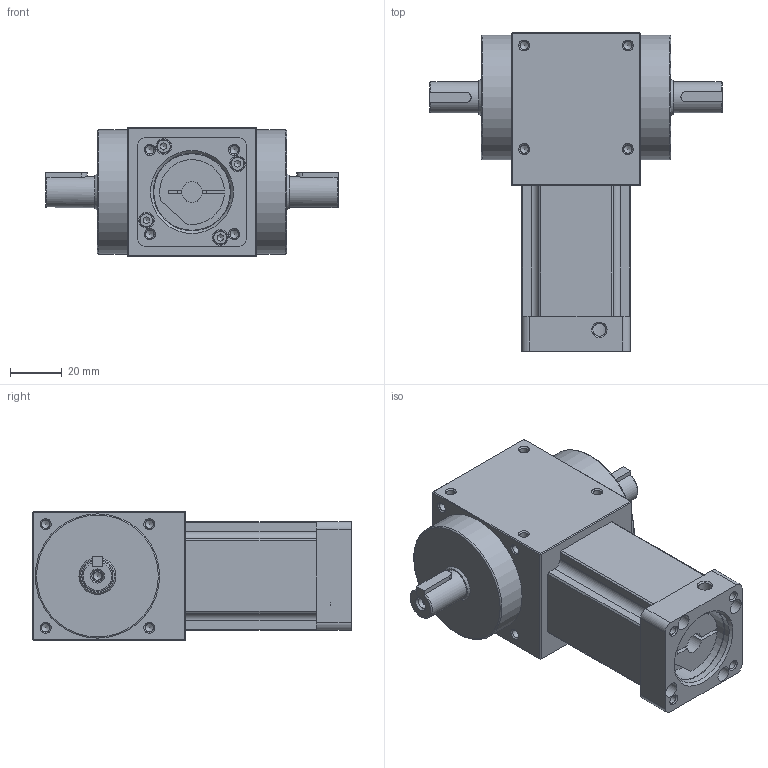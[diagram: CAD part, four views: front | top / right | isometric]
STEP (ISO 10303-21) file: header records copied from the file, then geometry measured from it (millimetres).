
FILE_DESCRIPTION((''),'2;1');
FILE_NAME('D:\유성\SBT 베벨기어박스\최종도면모음\3D\SBT050\SBT050PTS003~010K.stp','2014-05-19T15:32:45',(''),(''),'Autodesk Inventor 2013','Autodesk Inventor 2013','');
FILE_SCHEMA(('AUTOMOTIVE_DESIGN { 1 0 10303 214 1 1 1 1 }'));
Length unit declared in the file: millimetre
Products named in the file (1): SBT050PTS003~010K_Shrinkwrap_1
Bounding box: 113 x 123 x 50 mm (x, y, z)
Volume: 287645.3 mm3; surface area: 39502.9 mm2
Topology: 1 solids, 5 shells, 286 faces, 742 edges, 461 vertices
Faces by surface type: plane 113, cylinder 96, cone 65, torus 12
Full cylindrical faces by diameter (mm): 3 x4, 3.242 x46, 3.4 x4, 4 x2, 4.3 x2, 5 x1, 5.5 x4, 6 x4, 8 x1, 11 x1, 12 x2, 29.5 x1, 30 x1, 33.5 x1, 48 x2
Entity records: 7443 total; most frequent: CARTESIAN_POINT 1340, DIRECTION 1320, ORIENTED_EDGE 1026, AXIS2_PLACEMENT_3D 553, EDGE_CURVE 513, EDGE_LOOP 468, VERTEX_POINT 383, FACE_OUTER_BOUND 286
